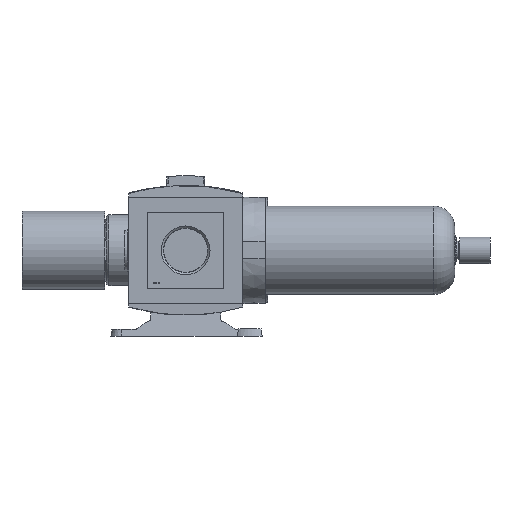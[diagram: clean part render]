
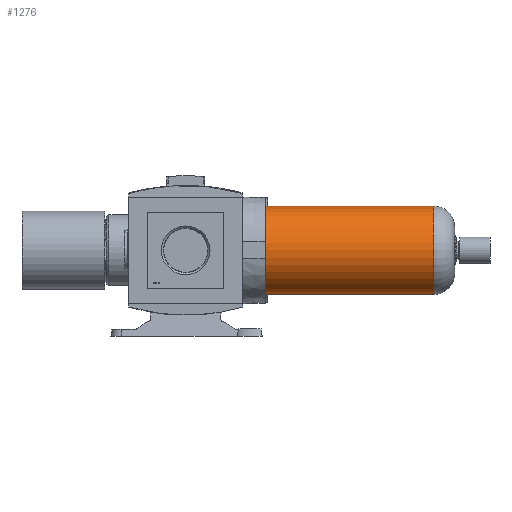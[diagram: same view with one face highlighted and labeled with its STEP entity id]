
A CAD part, left-side view. The second image highlights one B-rep face of the part: STEP entity #1276.
In plain terms, the highlighted cylindrical face has radius 31.75 mm (diameter 63.5 mm), a full revolution.
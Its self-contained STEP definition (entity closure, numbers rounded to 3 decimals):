
#1276 = ADVANCED_FACE( '', ( #2959, #2960 ), #2961, .T. );
#2959 = FACE_OUTER_BOUND( '', #5314, .T. );
#2960 = FACE_OUTER_BOUND( '', #5315, .T. );
#2961 = CYLINDRICAL_SURFACE( '', #5316, 31.75 );
#5314 = EDGE_LOOP( '', ( #8314 ) );
#5315 = EDGE_LOOP( '', ( #8315 ) );
#5316 = AXIS2_PLACEMENT_3D( '', #8316, #8317, #8318 );
#8314 = ORIENTED_EDGE( '', *, *, #13946, .F. );
#8315 = ORIENTED_EDGE( '', *, *, #13947, .T. );
#8316 = CARTESIAN_POINT( '', ( 0., -136.7, 0. ) );
#8317 = DIRECTION( '', ( 0., 1., 0. ) );
#8318 = DIRECTION( '', ( 0., 0., -1. ) );
#13946 = EDGE_CURVE( '', #16692, #16692, #16693, .T. );
#13947 = EDGE_CURVE( '', #16694, #16694, #16695, .T. );
#16692 = VERTEX_POINT( '', #20542 );
#16693 = CIRCLE( '', #20543, 31.75 );
#16694 = VERTEX_POINT( '', #20544 );
#16695 = CIRCLE( '', #20545, 31.75 );
#20542 = CARTESIAN_POINT( '', ( 0., -121.1, -31.75 ) );
#20543 = AXIS2_PLACEMENT_3D( '', #24719, #24720, #24721 );
#20544 = CARTESIAN_POINT( '', ( 0., 0., -31.75 ) );
#20545 = AXIS2_PLACEMENT_3D( '', #24722, #24723, #24724 );
#24719 = CARTESIAN_POINT( '', ( 0., -121.1, 0. ) );
#24720 = DIRECTION( '', ( 0., -1., 0. ) );
#24721 = DIRECTION( '', ( 0., 0., -1. ) );
#24722 = CARTESIAN_POINT( '', ( 0., 0., 0. ) );
#24723 = DIRECTION( '', ( 0., -1., 0. ) );
#24724 = DIRECTION( '', ( 0., 0., -1. ) );
